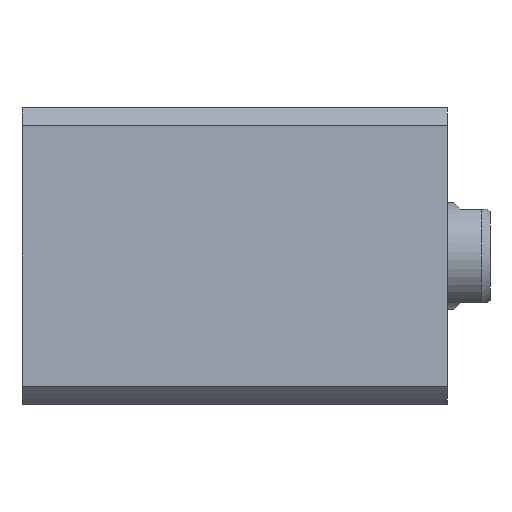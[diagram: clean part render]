
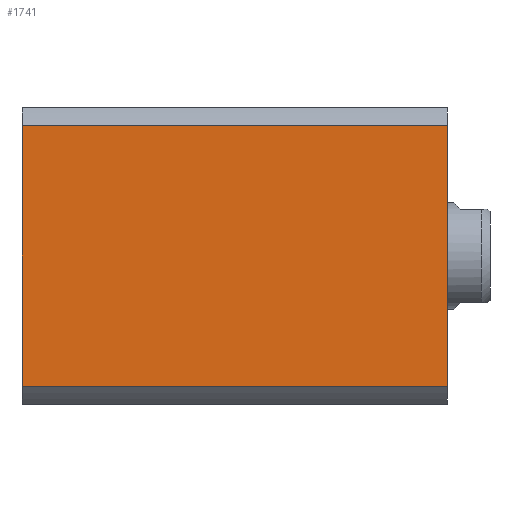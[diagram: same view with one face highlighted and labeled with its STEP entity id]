
A CAD part, left-side view. The second image highlights one B-rep face of the part: STEP entity #1741.
In plain terms, the highlighted planar face has unit normal (-1, 0, 0) as drawn and (0, 1, 0) by its records, which use the part's own axes.
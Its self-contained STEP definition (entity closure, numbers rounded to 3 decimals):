
#152 = CARTESIAN_POINT ( 'NONE',  ( -30.615, 35., 300. ) ) ;
#433 = DIRECTION ( 'NONE',  ( 0., 0., -1. ) ) ;
#545 = CARTESIAN_POINT ( 'NONE',  ( -30.615, 35., 100. ) ) ;
#655 = AXIS2_PLACEMENT_3D ( 'NONE', #5873, #5110, #433 ) ;
#753 = VERTEX_POINT ( 'NONE', #7976 ) ;
#918 = DIRECTION ( 'NONE',  ( -1., 0., 0. ) ) ;
#1233 = EDGE_CURVE ( 'NONE', #4957, #9193, #6200, .T. ) ;
#1403 = FACE_OUTER_BOUND ( 'NONE', #4347, .T. ) ;
#1552 = LINE ( 'NONE', #152, #7503 ) ;
#1741 = ADVANCED_FACE ( 'NONE', ( #1403 ), #8978, .F. ) ;
#2615 = EDGE_CURVE ( 'NONE', #753, #4957, #9243, .T. ) ;
#3207 = CARTESIAN_POINT ( 'NONE',  ( 30.615, 35., 300. ) ) ;
#4005 = EDGE_CURVE ( 'NONE', #753, #5875, #7791, .T. ) ;
#4050 = CARTESIAN_POINT ( 'NONE',  ( -35., 35., 100. ) ) ;
#4114 = VECTOR ( 'NONE', #918, 1000. ) ;
#4347 = EDGE_LOOP ( 'NONE', ( #6166, #7876, #5181, #6533 ) ) ;
#4885 = VECTOR ( 'NONE', #9414, 1000. ) ;
#4957 = VERTEX_POINT ( 'NONE', #9668 ) ;
#5110 = DIRECTION ( 'NONE',  ( 0., -1., 0. ) ) ;
#5181 = ORIENTED_EDGE ( 'NONE', *, *, #2615, .F. ) ;
#5625 = DIRECTION ( 'NONE',  ( 0., 0., -1. ) ) ;
#5626 = CARTESIAN_POINT ( 'NONE',  ( -35., 35., 0. ) ) ;
#5740 = VECTOR ( 'NONE', #6474, 1000. ) ;
#5873 = CARTESIAN_POINT ( 'NONE',  ( -35., 35., 100. ) ) ;
#5875 = VERTEX_POINT ( 'NONE', #8492 ) ;
#6166 = ORIENTED_EDGE ( 'NONE', *, *, #9837, .F. ) ;
#6200 = LINE ( 'NONE', #4050, #4114 ) ;
#6474 = DIRECTION ( 'NONE',  ( -1., 0., 0. ) ) ;
#6533 = ORIENTED_EDGE ( 'NONE', *, *, #4005, .T. ) ;
#7503 = VECTOR ( 'NONE', #5625, 1000. ) ;
#7791 = LINE ( 'NONE', #5626, #5740 ) ;
#7876 = ORIENTED_EDGE ( 'NONE', *, *, #1233, .F. ) ;
#7976 = CARTESIAN_POINT ( 'NONE',  ( 30.615, 35., 0. ) ) ;
#8492 = CARTESIAN_POINT ( 'NONE',  ( -30.615, 35., 0. ) ) ;
#8978 = PLANE ( 'NONE',  #655 ) ;
#9193 = VERTEX_POINT ( 'NONE', #545 ) ;
#9243 = LINE ( 'NONE', #3207, #4885 ) ;
#9414 = DIRECTION ( 'NONE',  ( 0., 0., 1. ) ) ;
#9668 = CARTESIAN_POINT ( 'NONE',  ( 30.615, 35., 100. ) ) ;
#9837 = EDGE_CURVE ( 'NONE', #9193, #5875, #1552, .T. ) ;
